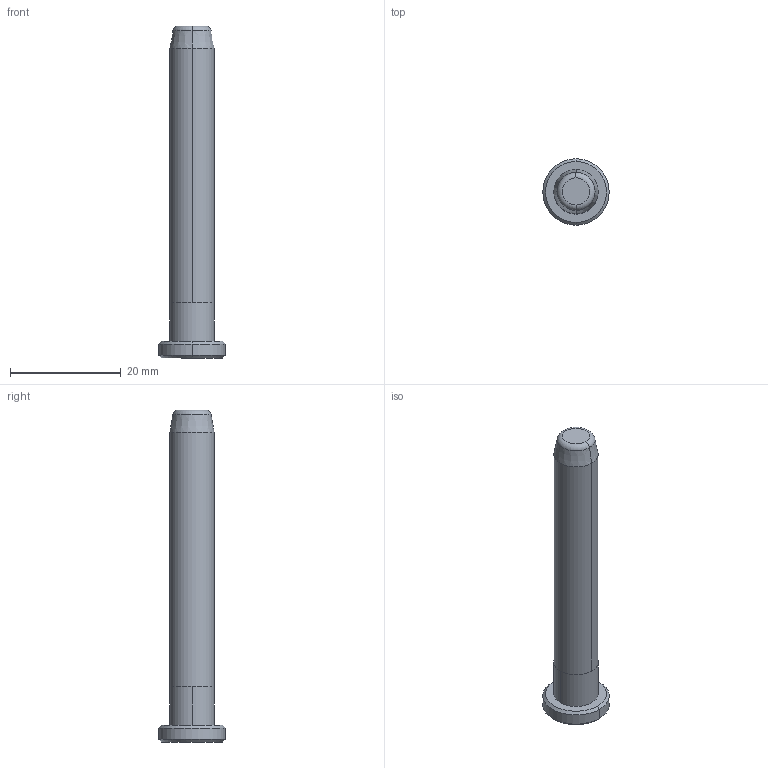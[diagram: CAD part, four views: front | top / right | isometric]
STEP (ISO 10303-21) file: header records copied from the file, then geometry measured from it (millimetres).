
FILE_DESCRIPTION((''),'2;1');
FILE_NAME('B80808060','2018-01-06T',('MANU'),(''),'PRO/ENGINEER BY PARAMETRIC TECHNOLOGY CORPORATION, 2012130','PRO/ENGINEER BY PARAMETRIC TECHNOLOGY CORPORATION, 2012130','');
FILE_SCHEMA(('CONFIG_CONTROL_DESIGN'));
Length unit declared in the file: millimetre
Products named in the file (1): B80808060
Bounding box: 12 x 12 x 60 mm (x, y, z)
Volume: 3160.9 mm3; surface area: 1719.8 mm2
Topology: 1 solids, 1 shells, 18 faces, 34 edges, 20 vertices
Faces by surface type: cone 6, cylinder 6, plane 4, torus 2
Entity records: 494 total; most frequent: DIRECTION 92, CARTESIAN_POINT 72, ORIENTED_EDGE 68, AXIS2_PLACEMENT_3D 40, EDGE_CURVE 34, CIRCLE 22, VERTEX_POINT 20, EDGE_LOOP 20
